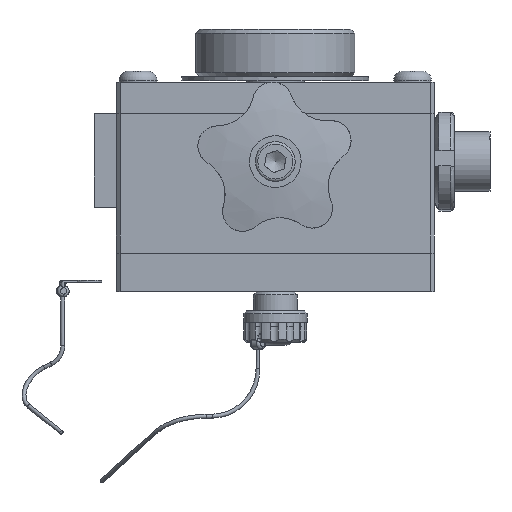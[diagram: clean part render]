
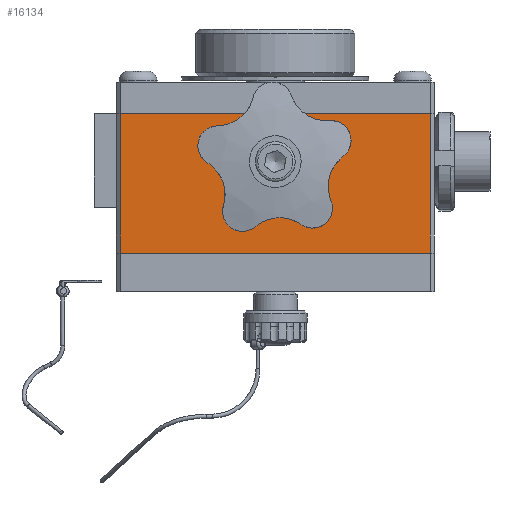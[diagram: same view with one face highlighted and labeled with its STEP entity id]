
A CAD part, left-side view. The second image highlights one B-rep face of the part: STEP entity #16134.
In plain terms, the highlighted planar face has unit normal (-1, 0, 0) as drawn and (0, 0, 1) by its records, which use the part's own axes.
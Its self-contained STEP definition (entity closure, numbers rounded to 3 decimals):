
#1068=FACE_BOUND('',#2810,.T.);
#1255=PLANE('',#17771);
#1866=FACE_OUTER_BOUND('',#2809,.T.);
#2809=EDGE_LOOP('',(#11575,#11576,#11577,#11578));
#2810=EDGE_LOOP('',(#11579));
#3904=LINE('',#24081,#5348);
#3917=LINE('',#24111,#5361);
#3918=LINE('',#24114,#5362);
#3919=LINE('',#24115,#5363);
#5348=VECTOR('',#19537,10.);
#5361=VECTOR('',#19564,10.);
#5362=VECTOR('',#19567,10.);
#5363=VECTOR('',#19568,10.);
#6802=CIRCLE('',#17772,6.959);
#7454=VERTEX_POINT('',#24078);
#7455=VERTEX_POINT('',#24080);
#7465=VERTEX_POINT('',#24109);
#7466=VERTEX_POINT('',#24113);
#7467=VERTEX_POINT('',#24116);
#9090=EDGE_CURVE('',#7455,#7454,#3904,.T.);
#9108=EDGE_CURVE('',#7465,#7454,#3917,.T.);
#9109=EDGE_CURVE('',#7465,#7466,#3918,.T.);
#9110=EDGE_CURVE('',#7455,#7466,#3919,.T.);
#9111=EDGE_CURVE('',#7467,#7467,#6802,.T.);
#11575=ORIENTED_EDGE('',*,*,#9108,.F.);
#11576=ORIENTED_EDGE('',*,*,#9109,.T.);
#11577=ORIENTED_EDGE('',*,*,#9110,.F.);
#11578=ORIENTED_EDGE('',*,*,#9090,.T.);
#11579=ORIENTED_EDGE('',*,*,#9111,.T.);
#16134=ADVANCED_FACE('',(#1866,#1068),#1255,.T.);
#17771=AXIS2_PLACEMENT_3D('',#24112,#19565,#19566);
#17772=AXIS2_PLACEMENT_3D('',#24117,#19569,#19570);
#19537=DIRECTION('',(-1.,0.,0.));
#19564=DIRECTION('',(0.,1.,0.));
#19565=DIRECTION('center_axis',(0.,0.,
1.));
#19566=DIRECTION('ref_axis',(1.,0.,0.));
#19567=DIRECTION('',(1.,0.,0.));
#19568=DIRECTION('',(0.,-1.,0.));
#19569=DIRECTION('center_axis',(0.,0.,
-1.));
#19570=DIRECTION('ref_axis',(-1.,0.,0.));
#24078=CARTESIAN_POINT('',(-39.,17.5,90.));
#24080=CARTESIAN_POINT('',(39.,17.5,90.));
#24081=CARTESIAN_POINT('',(-40.,17.5,90.));
#24109=CARTESIAN_POINT('',(-39.,-17.5,90.));
#24111=CARTESIAN_POINT('',(-39.,8.75,90.));
#24112=CARTESIAN_POINT('Origin',(0.,0.,
90.));
#24113=CARTESIAN_POINT('',(39.,-17.5,90.));
#24114=CARTESIAN_POINT('',(40.,-17.5,90.));
#24115=CARTESIAN_POINT('',(39.,-8.75,90.));
#24116=CARTESIAN_POINT('',(6.959,5.5,90.));
#24117=CARTESIAN_POINT('Origin',(0.,5.5,
90.));
